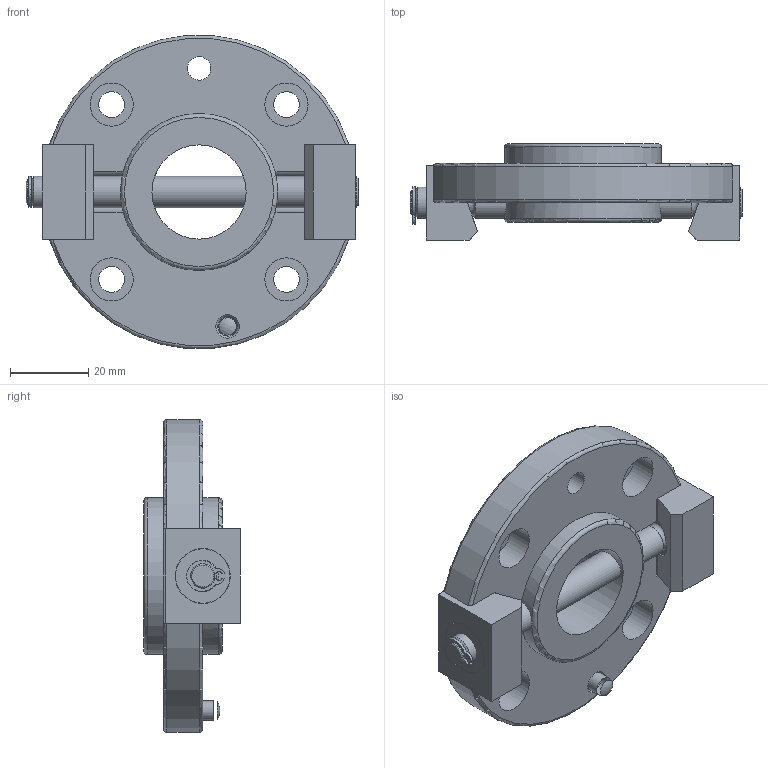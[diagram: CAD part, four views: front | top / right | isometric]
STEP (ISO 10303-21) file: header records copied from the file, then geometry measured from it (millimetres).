
FILE_DESCRIPTION(/* description */ (''),/* implementation_level */ '2;1');
FILE_NAME(/* name */ '\\dc01\daten\CAD\Standard\Daten\3D-Datenbank\SWA\4 - 3D-CAD-Daten SWA 050-160\SWA080\step-Daten\G-SWA080-2O.stp',/* time_stamp */ '2020-01-29T16:06:05+01:00',/* author */ ('ysplieth'),/* organization */ (''),/* preprocessor_version */ 'ST-DEVELOPER v17',/* originating_system */ 'Autodesk Inventor 2018',/* authorisation */ '');
FILE_SCHEMA (('AUTOMOTIVE_DESIGN { 1 0 10303 214 3 1 1 }'));
Length unit declared in the file: millimetre
Products named in the file (1): Bauteil25
Bounding box: 84.6 x 24.5 x 79.72 mm (x, y, z)
Volume: 57305.1 mm3; surface area: 23990.1 mm2
Topology: 9 solids, 9 shells, 143 faces, 396 edges, 281 vertices
Faces by surface type: plane 74, cylinder 49, cone 10, torus 8, sphere 2
Full cylindrical faces by diameter (mm): 4 x1, 4.134 x1, 4.5 x1, 5 x2, 5.5 x1, 6 x3, 6.2 x1, 6.6 x4, 6.647 x2, 7.4 x2, 8 x4, 8.2 x2, 10 x4, 11 x4, 13.9 x2, 14 x2, 24 x1, 40 x2
Entity records: 5202 total; most frequent: CARTESIAN_POINT 1135, DIRECTION 829, ORIENTED_EDGE 790, EDGE_CURVE 395, AXIS2_PLACEMENT_3D 326, VERTEX_POINT 281, EDGE_LOOP 182, LINE 177
